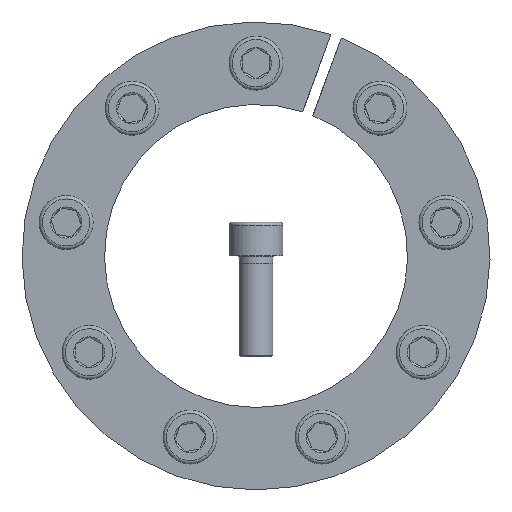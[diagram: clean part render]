
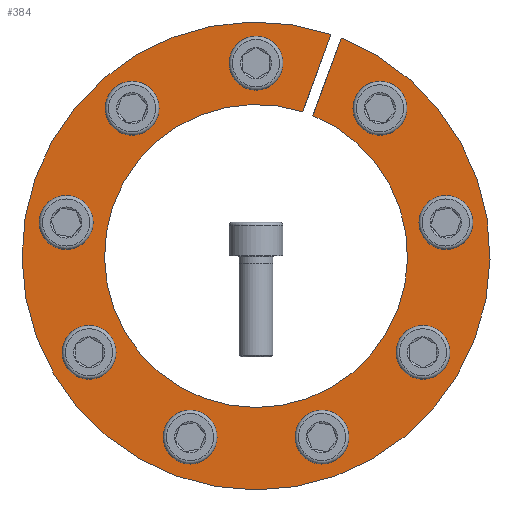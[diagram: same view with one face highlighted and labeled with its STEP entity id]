
A CAD part, front view. The second image highlights one B-rep face of the part: STEP entity #384.
In plain terms, the highlighted planar face has unit normal (0, -1, 0).
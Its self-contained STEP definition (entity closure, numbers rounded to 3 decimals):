
#384 = ADVANCED_FACE( '', ( #596, #597, #598, #599, #600, #601, #602, #603, #604, #605 ), #606, .F. );
#596 = FACE_BOUND( '', #770, .T. );
#597 = FACE_BOUND( '', #771, .T. );
#598 = FACE_BOUND( '', #772, .T. );
#599 = FACE_BOUND( '', #773, .T. );
#600 = FACE_BOUND( '', #774, .T. );
#601 = FACE_BOUND( '', #775, .T. );
#602 = FACE_BOUND( '', #776, .T. );
#603 = FACE_BOUND( '', #777, .T. );
#604 = FACE_BOUND( '', #778, .T. );
#605 = FACE_OUTER_BOUND( '', #779, .T. );
#606 = PLANE( '', #780 );
#770 = EDGE_LOOP( '', ( #983 ) );
#771 = EDGE_LOOP( '', ( #984 ) );
#772 = EDGE_LOOP( '', ( #985 ) );
#773 = EDGE_LOOP( '', ( #986 ) );
#774 = EDGE_LOOP( '', ( #987 ) );
#775 = EDGE_LOOP( '', ( #988 ) );
#776 = EDGE_LOOP( '', ( #989 ) );
#777 = EDGE_LOOP( '', ( #990 ) );
#778 = EDGE_LOOP( '', ( #991 ) );
#779 = EDGE_LOOP( '', ( #992, #993, #994, #995 ) );
#780 = AXIS2_PLACEMENT_3D( '', #996, #997, #998 );
#983 = ORIENTED_EDGE( '', *, *, #1339, .T. );
#984 = ORIENTED_EDGE( '', *, *, #1340, .T. );
#985 = ORIENTED_EDGE( '', *, *, #1341, .T. );
#986 = ORIENTED_EDGE( '', *, *, #1342, .T. );
#987 = ORIENTED_EDGE( '', *, *, #1343, .T. );
#988 = ORIENTED_EDGE( '', *, *, #1344, .T. );
#989 = ORIENTED_EDGE( '', *, *, #1345, .T. );
#990 = ORIENTED_EDGE( '', *, *, #1346, .T. );
#991 = ORIENTED_EDGE( '', *, *, #1347, .T. );
#992 = ORIENTED_EDGE( '', *, *, #1348, .T. );
#993 = ORIENTED_EDGE( '', *, *, #1349, .T. );
#994 = ORIENTED_EDGE( '', *, *, #1331, .T. );
#995 = ORIENTED_EDGE( '', *, *, #1350, .F. );
#996 = CARTESIAN_POINT( '', ( 0., 0., 69.5 ) );
#997 = DIRECTION( '', ( 0., 1., 0. ) );
#998 = DIRECTION( '', ( 0., 0., 1. ) );
#1331 = EDGE_CURVE( '', #1475, #1473, #1476, .T. );
#1339 = EDGE_CURVE( '', #1489, #1489, #1490, .T. );
#1340 = EDGE_CURVE( '', #1491, #1491, #1492, .T. );
#1341 = EDGE_CURVE( '', #1493, #1493, #1494, .T. );
#1342 = EDGE_CURVE( '', #1495, #1495, #1496, .T. );
#1343 = EDGE_CURVE( '', #1497, #1497, #1498, .T. );
#1344 = EDGE_CURVE( '', #1499, #1499, #1500, .T. );
#1345 = EDGE_CURVE( '', #1501, #1501, #1502, .T. );
#1346 = EDGE_CURVE( '', #1503, #1503, #1504, .T. );
#1347 = EDGE_CURVE( '', #1505, #1505, #1506, .T. );
#1348 = EDGE_CURVE( '', #1507, #1508, #1509, .T. );
#1349 = EDGE_CURVE( '', #1508, #1475, #1510, .T. );
#1350 = EDGE_CURVE( '', #1507, #1473, #1511, .T. );
#1473 = VERTEX_POINT( '', #1597 );
#1475 = VERTEX_POINT( '', #1600 );
#1476 = LINE( '', #1601, #1602 );
#1489 = VERTEX_POINT( '', #1626 );
#1490 = CIRCLE( '', #1627, 5. );
#1491 = VERTEX_POINT( '', #1628 );
#1492 = CIRCLE( '', #1629, 5. );
#1493 = VERTEX_POINT( '', #1630 );
#1494 = CIRCLE( '', #1631, 5. );
#1495 = VERTEX_POINT( '', #1632 );
#1496 = CIRCLE( '', #1633, 5. );
#1497 = VERTEX_POINT( '', #1634 );
#1498 = CIRCLE( '', #1635, 5. );
#1499 = VERTEX_POINT( '', #1636 );
#1500 = CIRCLE( '', #1637, 5. );
#1501 = VERTEX_POINT( '', #1638 );
#1502 = CIRCLE( '', #1639, 5. );
#1503 = VERTEX_POINT( '', #1640 );
#1504 = CIRCLE( '', #1641, 5. );
#1505 = VERTEX_POINT( '', #1642 );
#1506 = CIRCLE( '', #1643, 5. );
#1507 = VERTEX_POINT( '', #1644 );
#1508 = VERTEX_POINT( '', #1645 );
#1509 = LINE( '', #1646, #1647 );
#1510 = CIRCLE( '', #1648, 69.5 );
#1511 = CIRCLE( '', #1649, 45. );
#1597 = CARTESIAN_POINT( '', ( 16.908, 0., 41.703 ) );
#1600 = CARTESIAN_POINT( '', ( 25.291, 0., 64.735 ) );
#1601 = CARTESIAN_POINT( '', ( 25.297, 0., 64.753 ) );
#1602 = VECTOR( '', #1754, 1000. );
#1626 = CARTESIAN_POINT( '', ( -32.969, 0., 47.07 ) );
#1627 = AXIS2_PLACEMENT_3D( '', #1760, #1761, #1762 );
#1628 = CARTESIAN_POINT( '', ( -52.08, 0., -24.295 ) );
#1629 = AXIS2_PLACEMENT_3D( '', #1763, #1764, #1765 );
#1630 = CARTESIAN_POINT( '', ( 14.882, 0., -55.508 ) );
#1631 = AXIS2_PLACEMENT_3D( '', #1766, #1767, #1768 );
#1632 = CARTESIAN_POINT( '', ( 57.248, 0., 5.017 ) );
#1633 = AXIS2_PLACEMENT_3D( '', #1769, #1770, #1771 );
#1634 = CARTESIAN_POINT( '', ( 5., 0., 57.25 ) );
#1635 = AXIS2_PLACEMENT_3D( '', #1772, #1773, #1774 );
#1636 = CARTESIAN_POINT( '', ( 40.63, 0., 40.642 ) );
#1637 = AXIS2_PLACEMENT_3D( '', #1775, #1776, #1777 );
#1638 = CARTESIAN_POINT( '', ( 47.08, 0., -32.955 ) );
#1639 = AXIS2_PLACEMENT_3D( '', #1778, #1779, #1780 );
#1640 = CARTESIAN_POINT( '', ( -24.279, 0., -52.087 ) );
#1641 = AXIS2_PLACEMENT_3D( '', #1781, #1782, #1783 );
#1642 = CARTESIAN_POINT( '', ( -55.512, 0., 14.865 ) );
#1643 = AXIS2_PLACEMENT_3D( '', #1784, #1785, #1786 );
#1644 = CARTESIAN_POINT( '', ( 13.854, 0., 42.814 ) );
#1645 = CARTESIAN_POINT( '', ( 22.237, 0., 65.847 ) );
#1646 = CARTESIAN_POINT( '', ( 13.854, 0., 42.814 ) );
#1647 = VECTOR( '', #1787, 1000. );
#1648 = AXIS2_PLACEMENT_3D( '', #1788, #1789, #1790 );
#1649 = AXIS2_PLACEMENT_3D( '', #1791, #1792, #1793 );
#1754 = DIRECTION( '', ( -0.342, 0., -0.94 ) );
#1760 = CARTESIAN_POINT( '', ( -36.8, 0., 43.856 ) );
#1761 = DIRECTION( '', ( 0., 1., 0. ) );
#1762 = DIRECTION( '', ( 0.766, 0., 0.643 ) );
#1763 = CARTESIAN_POINT( '', ( -49.58, 0., -28.625 ) );
#1764 = DIRECTION( '', ( 0., 1., 0. ) );
#1765 = DIRECTION( '', ( -0.5, 0., 0.866 ) );
#1766 = CARTESIAN_POINT( '', ( 19.581, 0., -53.797 ) );
#1767 = DIRECTION( '', ( 0., 1., 0. ) );
#1768 = DIRECTION( '', ( -0.94, 0., -0.342 ) );
#1769 = CARTESIAN_POINT( '', ( 56.38, 0., 9.941 ) );
#1770 = DIRECTION( '', ( 0., 1., 0. ) );
#1771 = DIRECTION( '', ( 0.174, 0., -0.985 ) );
#1772 = CARTESIAN_POINT( '', ( 0., 0., 57.25 ) );
#1773 = DIRECTION( '', ( 0., 1., 0. ) );
#1774 = DIRECTION( '', ( 1., 0., 0. ) );
#1775 = CARTESIAN_POINT( '', ( 36.8, 0., 43.856 ) );
#1776 = DIRECTION( '', ( 0., 1., 0. ) );
#1777 = DIRECTION( '', ( 0.766, 0., -0.643 ) );
#1778 = CARTESIAN_POINT( '', ( 49.58, 0., -28.625 ) );
#1779 = DIRECTION( '', ( 0., 1., 0. ) );
#1780 = DIRECTION( '', ( -0.5, 0., -0.866 ) );
#1781 = CARTESIAN_POINT( '', ( -19.581, 0., -53.797 ) );
#1782 = DIRECTION( '', ( 0., 1., 0. ) );
#1783 = DIRECTION( '', ( -0.94, 0., 0.342 ) );
#1784 = CARTESIAN_POINT( '', ( -56.38, 0., 9.941 ) );
#1785 = DIRECTION( '', ( 0., 1., 0. ) );
#1786 = DIRECTION( '', ( 0.174, 0., 0.985 ) );
#1787 = DIRECTION( '', ( 0.342, 0., 0.94 ) );
#1788 = CARTESIAN_POINT( '', ( 0., 0., 0. ) );
#1789 = DIRECTION( '', ( 0., -1., 0. ) );
#1790 = DIRECTION( '', ( 0., 0., -1. ) );
#1791 = CARTESIAN_POINT( '', ( 0., 0., 0. ) );
#1792 = DIRECTION( '', ( 0., -1., 0. ) );
#1793 = DIRECTION( '', ( 0., 0., -1. ) );
